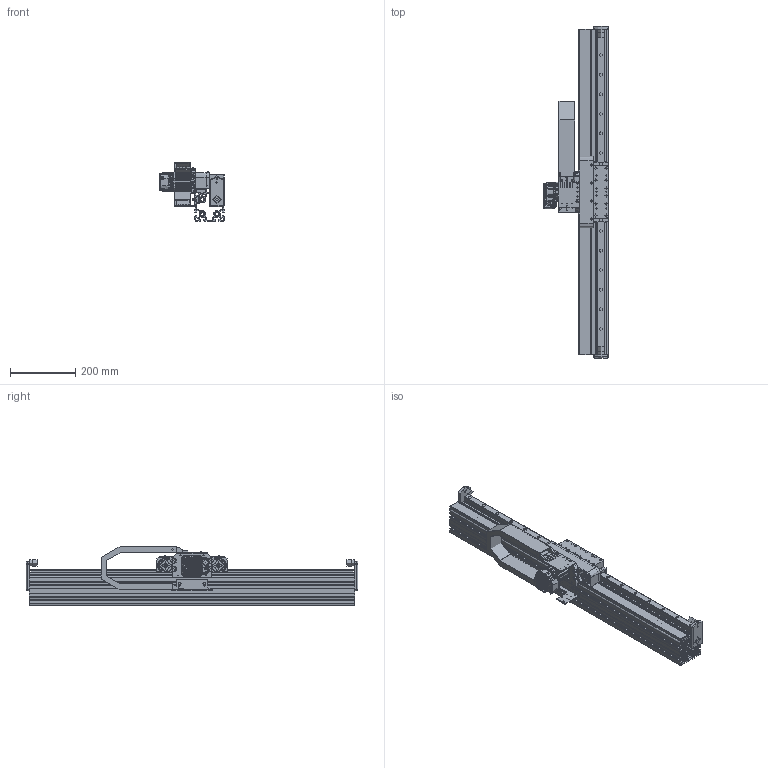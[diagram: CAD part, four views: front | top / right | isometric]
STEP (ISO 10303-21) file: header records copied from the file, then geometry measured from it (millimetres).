
FILE_DESCRIPTION( ( '' ), ' ' );
FILE_NAME( '/vol/tmp/translate-14523424908186829209/5c7ea518ecefbd1a43844d6f.step', '2019-03-05T16:34:38', ( '' ), ( '' ), ' ', ' ', ' ' );
FILE_SCHEMA( ( 'AUTOMOTIVE_DESIGN { 1 0 10303 214 1 1 1 1 }' ) );
Length unit declared in the file: metre
Products named in the file (85): RAIL FASTENERS <1>; 20mm BEARING RAIL CAP; 102684-001 BOSCH 10mm T-BLOCK M5; 100001-8065 M5-.80 X 25 ALLOY SHCS; RAIL FASTENERS <2>; RAIL FASTENERS <14>; RAIL FASTENERS <12>; TRAY FASTENERS <1>; #8009; #8017; RAIL FASTENERS <15>; RAIL FASTENERS <17>; TRAY FASTENERS <4>; RAIL FASTENERS <8>; RAIL FASTENERS <5>; RAIL FASTENERS <11>; RAIL FASTENERS <7>; RAIL FASTENERS <3>; RAIL FASTENERS <6>; RAIL FASTENERS <4>; RAIL FASTENERS <10>; TRAY FASTENERS <2>; TRAY FASTENERS <3>; RAIL FASTENERS <9>; RAIL FASTENERS <16>; RAIL FASTENERS <13>; TRAY FASTENERS <5>; 104587-001 SBL-M DYNAMIC BEARING ASSEMBLY <1>; 102638-005 5202 SHIELDED DOUBLE ROW BALL BEARING; 103126-001 SBL-M BEARING SHAFT; RAIL <1>; 102732-990 20mm STANDARD GUIDE RAIL; 106888-001 20mm RAIL COVER; 104587-001 SBL-M DYNAMIC BEARING ASSEMBLY <2>; CPM-23XX & PINION <1>; 100013-008 M4 X 6 SS SET SCREW; 104885-002 SBL-M PINION GEAR .375 BORE; GENERIC CPM 232X; TRAY <1>; 102567-001 T5 X 32mm BELTING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
Assembly tree (199 placements, depth 5):
  Assem1
    102977-001 LINKS
    107170-001 SBL-M-LT DRIVE BLOCK ASSEMBLY WITH COVER <1>
      100001-061 M5-.80 X 12 SS SHCS  x2
      100081-015 0.07 W X 0.551 ID BUN-N O-RING  x6
      100006-004 M4-.70 X 8 SS BHCS  x4
      105323-001 KEY 4mm SQUARE X 16mm LONG
      100001-068 M5-.80 X 40 SS SHCS  x4
      100006-013 M8 X 12 SS BHCS  x2
      105427-001 SBL-M-LT DRIVE MOUNT
      100003-048 M8 SS FENDER WASHER  x2
      100021-061 RADIAL BEARING 6302ZZ  x4
      102653-002 BEARING SPACER  x2
      105446-001 SBL-M LOOPTRACK BELT COVER
      103757-100 T5 BELT 100T X 32 WIDE
      104587-001 SBL-M DYNAMIC BEARING ASSEMBLY <1>
        102638-005 5202 SHIELDED DOUBLE ROW BALL BEARING  x2
        103126-001 SBL-M BEARING SHAFT
      104587-001 SBL-M DYNAMIC BEARING ASSEMBLY <2>
        102638-005 5202 SHIELDED DOUBLE ROW BALL BEARING  x2
        103126-001 SBL-M BEARING SHAFT
    1000 CHASSIS <1>
      102915-1000  90-SERIES PROFILE 90X90
      RAIL <1>
        102732-990 20mm STANDARD GUIDE RAIL
        106888-001 20mm RAIL COVER
        RAIL FASTENERS <7>
          20mm BEARING RAIL CAP
          100001-8065 M5-.80 X 25 ALLOY SHCS
          102684-001 BOSCH 10mm T-BLOCK M5
        RAIL FASTENERS <9>
          102684-001 BOSCH 10mm T-BLOCK M5
          100001-8065 M5-.80 X 25 ALLOY SHCS
          20mm BEARING RAIL CAP
        RAIL FASTENERS <3>
          20mm BEARING RAIL CAP
          102684-001 BOSCH 10mm T-BLOCK M5
          100001-8065 M5-.80 X 25 ALLOY SHCS
        RAIL FASTENERS <12>
          100001-8065 M5-.80 X 25 ALLOY SHCS
          102684-001 BOSCH 10mm T-BLOCK M5
          20mm BEARING RAIL CAP
        RAIL FASTENERS <14>
          20mm BEARING RAIL CAP
          102684-001 BOSCH 10mm T-BLOCK M5
          100001-8065 M5-.80 X 25 ALLOY SHCS
        RAIL FASTENERS <17>
          100001-8065 M5-.80 X 25 ALLOY SHCS
          102684-001 BOSCH 10mm T-BLOCK M5
          20mm BEARING RAIL CAP
        RAIL FASTENERS <15>
          20mm BEARING RAIL CAP
          102684-001 BOSCH 10mm T-BLOCK M5
          100001-8065 M5-.80 X 25 ALLOY SHCS
        RAIL FASTENERS <5>
          20mm BEARING RAIL CAP
          102684-001 BOSCH 10mm T-BLOCK M5
          100001-8065 M5-.80 X 25 ALLOY SHCS
        RAIL FASTENERS <16>
          20mm BEARING RAIL CAP
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Bounding box: 198.16 x 1019.05 x 180.83 mm (x, y, z)
Topology: 186 solids, 193 shells, 8542 faces, 21654 edges, 13709 vertices
Faces by surface type: plane 3249, cylinder 2500, bspline 1047, torus 886, cone 765, sphere 53, extrusion 42
Full cylindrical faces by diameter (mm): 1.587 x1, 1.6 x1, 1.846 x1, 2 x1, 2.096 x1, 2.44 x114, 2.5 x24, 2.54 x2, 2.6 x4, 2.66 x4, 3 x12, 3.048 x4, 3.09 x4, 3.175 x2, 3.2 x8, 3.3 x6, 3.4 x2, 3.454 x5, 4 x14, 4.166 x5, 4.2 x13, 4.216 x16, 4.5 x9, 4.8 x4, 5 x35, 5.004 x37, 5.105 x2, 5.156 x5, 5.2 x4, 5.5 x36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
Entity records: 343644 total; most frequent: CARTESIAN_POINT 130111, ORIENTED_EDGE 33062, DIRECTION 32481, EDGE_CURVE 16531, AXIS2_PLACEMENT_3D 12624, VERTEX_POINT 10850, EDGE_LOOP 8140, FACE_OUTER_BOUND 7380
